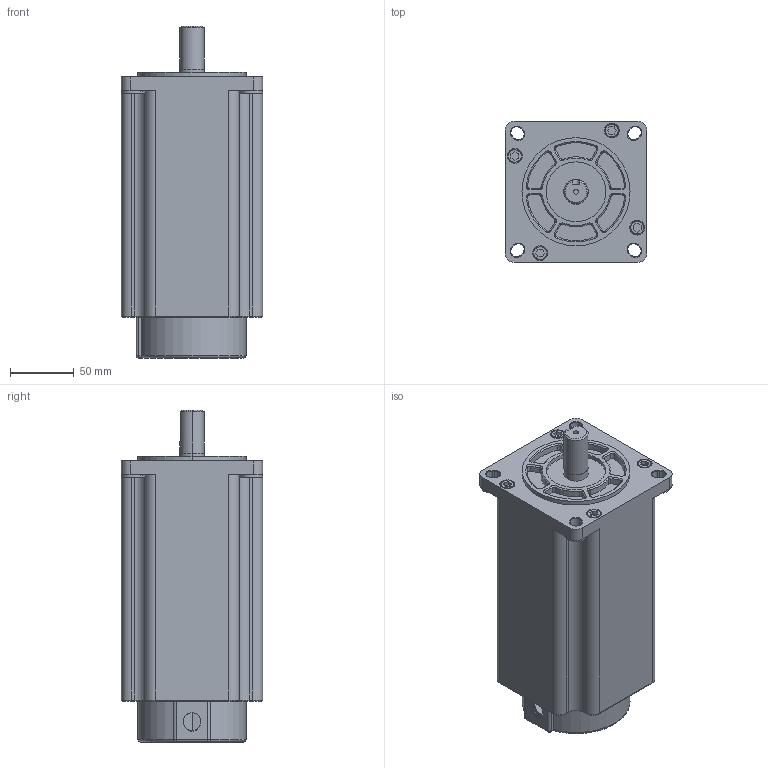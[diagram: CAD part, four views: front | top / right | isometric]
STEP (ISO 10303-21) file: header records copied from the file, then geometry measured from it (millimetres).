
FILE_DESCRIPTION((''),'2;1');
FILE_NAME('QL31122A','2022-07-05T09:41:43',('qingl'),(''),'CREO PARAMETRIC BY PTC INC, 2019224','CREO PARAMETRIC BY PTC INC, 2019224','');
FILE_SCHEMA(('CONFIG_CONTROL_DESIGN'));
Length unit declared in the file: millimetre
Products named in the file (1): QL31122A
Bounding box: 111 x 111 x 261 mm (x, y, z)
Volume: 2143987.9 mm3; surface area: 137574.7 mm2
Topology: 1 solids, 5 shells, 371 faces, 948 edges, 615 vertices
Faces by surface type: cylinder 158, plane 143, cone 53, torus 13, sphere 2, bspline 2
Entity records: 12185 total; most frequent: CARTESIAN_POINT 2877, DIRECTION 2031, ORIENTED_EDGE 1892, EDGE_CURVE 946, AXIS2_PLACEMENT_3D 768, VERTEX_POINT 615, VECTOR 495, LINE 495
